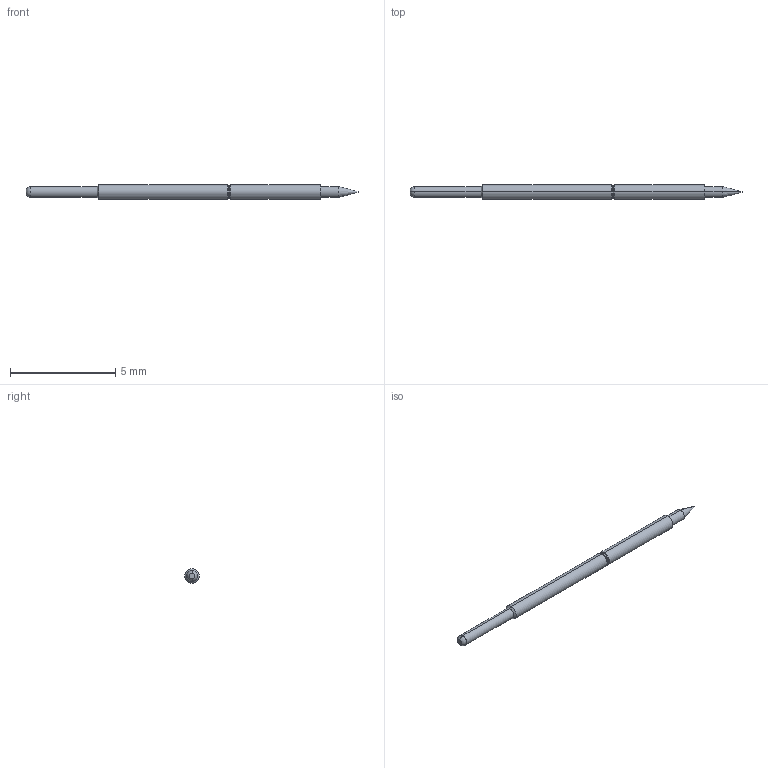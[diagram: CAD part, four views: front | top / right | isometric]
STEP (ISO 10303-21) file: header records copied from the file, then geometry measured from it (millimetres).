
FILE_DESCRIPTION (( 'STEP AP203' ), '1' );
FILE_NAME ('100187-005-948 (REST).STEP', '2022-12-28T04:17:10', ( '' ), ( '' ), 'SwSTEP 2.0', 'SolidWorks 2022', '' );
FILE_SCHEMA (( 'CONFIG_CONTROL_DESIGN' ));
Length unit declared in the file: inch
Products named in the file (1): 100187-005-948 (REST)
Bounding box: 15.75 x 0.69 x 0.69 mm (x, y, z)
Volume: 4.9 mm3; surface area: 30.8 mm2
Topology: 1 solids, 1 shells, 25 faces, 48 edges, 26 vertices
Faces by surface type: torus 10, cylinder 8, cone 4, plane 3
Entity records: 713 total; most frequent: DIRECTION 136, CARTESIAN_POINT 100, ORIENTED_EDGE 96, AXIS2_PLACEMENT_3D 62, EDGE_CURVE 48, CIRCLE 36, VERTEX_POINT 26, EDGE_LOOP 26
